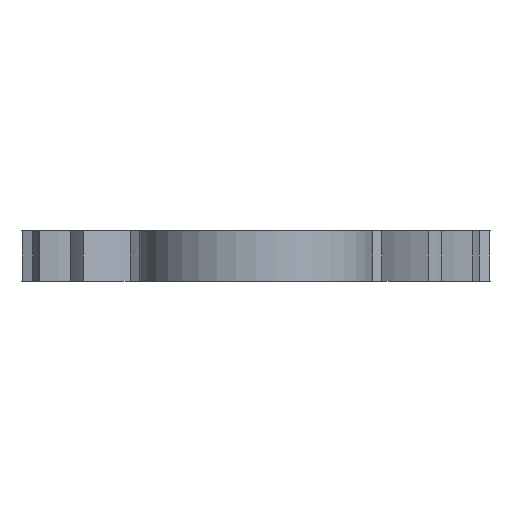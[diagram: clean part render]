
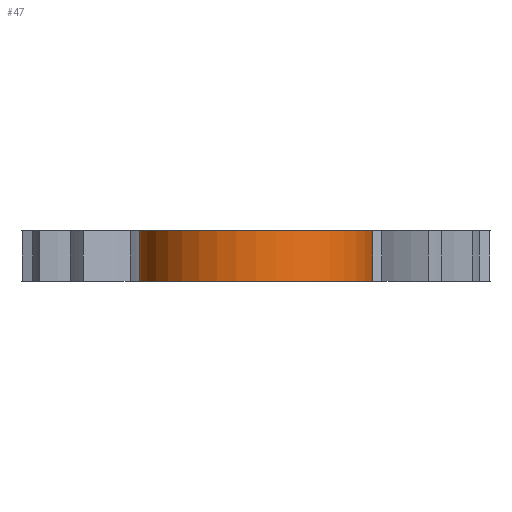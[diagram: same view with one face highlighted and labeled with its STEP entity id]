
A CAD part, left-side view. The second image highlights one B-rep face of the part: STEP entity #47.
In plain terms, the highlighted cylindrical face has radius 3.5 mm (diameter 7 mm), a partial arc.
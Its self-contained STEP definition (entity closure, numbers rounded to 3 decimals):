
#47=ADVANCED_FACE('',(#183),#116,.T.);
#116=CYLINDRICAL_SURFACE('',#1356,3.5);
#183=FACE_OUTER_BOUND('',#251,.T.);
#251=EDGE_LOOP('',(#478,#479,#480,#481));
#325=LINE('',#2039,#397);
#328=LINE('',#2051,#400);
#397=VECTOR('',#1560,1.);
#400=VECTOR('',#1573,1.);
#478=ORIENTED_EDGE('',*,*,#1020,.T.);
#479=ORIENTED_EDGE('',*,*,#1021,.T.);
#480=ORIENTED_EDGE('',*,*,#1022,.F.);
#481=ORIENTED_EDGE('',*,*,#1015,.F.);
#878=VERTEX_POINT('',#2038);
#879=VERTEX_POINT('',#2040);
#882=VERTEX_POINT('',#2050);
#883=VERTEX_POINT('',#2052);
#1015=EDGE_CURVE('',#878,#879,#325,.T.);
#1020=EDGE_CURVE('',#878,#882,#1218,.T.);
#1021=EDGE_CURVE('',#882,#883,#328,.T.);
#1022=EDGE_CURVE('',#879,#883,#1219,.T.);
#1218=CIRCLE('',#1354,3.5);
#1219=CIRCLE('',#1355,3.5);
#1354=AXIS2_PLACEMENT_3D('',#2049,#1571,#1572);
#1355=AXIS2_PLACEMENT_3D('',#2053,#1574,#1575);
#1356=AXIS2_PLACEMENT_3D('',#2054,#1576,#1577);
#1560=DIRECTION('',(0.,0.,1.));
#1571=DIRECTION('',(0.,0.,1.));
#1572=DIRECTION('',(0.735,0.679,0.));
#1573=DIRECTION('',(0.,0.,1.));
#1574=DIRECTION('',(0.,0.,1.));
#1575=DIRECTION('',(0.735,0.679,0.));
#1576=DIRECTION('',(0.,0.,1.));
#1577=DIRECTION('',(1.,0.,0.));
#2038=CARTESIAN_POINT('',(-22.929,2.375,0.));
#2039=CARTESIAN_POINT('',(-22.929,2.375,0.));
#2040=CARTESIAN_POINT('',(-22.929,2.375,1.5));
#2049=CARTESIAN_POINT('',(-25.5,0.,0.));
#2050=CARTESIAN_POINT('',(-22.929,-2.375,0.));
#2051=CARTESIAN_POINT('',(-22.929,-2.375,0.));
#2052=CARTESIAN_POINT('',(-22.929,-2.375,1.5));
#2053=CARTESIAN_POINT('',(-25.5,0.,1.5));
#2054=CARTESIAN_POINT('',(-25.5,0.,0.));
